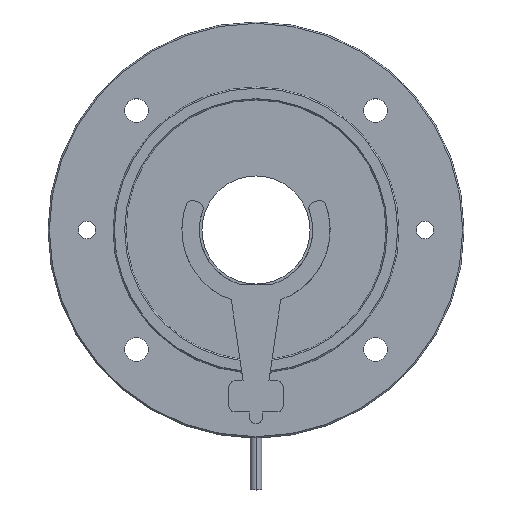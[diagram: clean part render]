
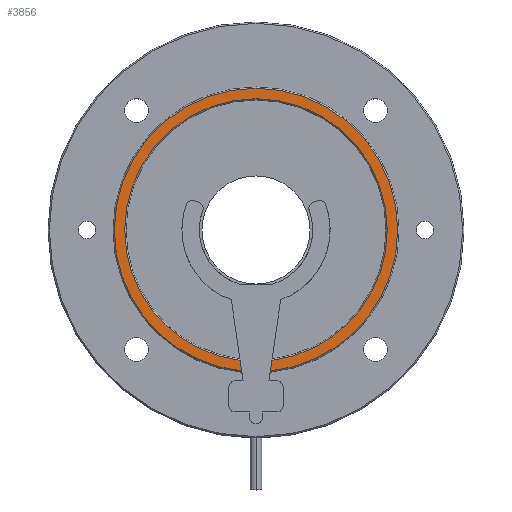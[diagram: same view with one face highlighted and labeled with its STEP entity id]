
A CAD part, top view. The second image highlights one B-rep face of the part: STEP entity #3856.
In plain terms, the highlighted planar face has unit normal (0, 0, 1).
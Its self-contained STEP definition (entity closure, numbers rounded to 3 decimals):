
#81 = VERTEX_POINT ( 'NONE', #2380 ) ;
#185 = DIRECTION ( 'NONE',  ( 0., 0., 1. ) ) ;
#232 = VERTEX_POINT ( 'NONE', #4898 ) ;
#249 = CARTESIAN_POINT ( 'NONE',  ( -50.5, 0., 0. ) ) ;
#353 = EDGE_CURVE ( 'NONE', #232, #2566, #5212, .T. ) ;
#562 = EDGE_CURVE ( 'NONE', #3844, #4221, #3636, .T. ) ;
#640 = CIRCLE ( 'NONE', #3425, 54.5 ) ;
#755 = CARTESIAN_POINT ( 'NONE',  ( 20.2, 47.078, 0. ) ) ;
#854 = DIRECTION ( 'NONE',  ( 0., 0., -1. ) ) ;
#877 = EDGE_CURVE ( 'NONE', #81, #2566, #3674, .T. ) ;
#886 = CARTESIAN_POINT ( 'NONE',  ( 50.5, 0., 0. ) ) ;
#915 = DIRECTION ( 'NONE',  ( -1., 0., 0. ) ) ;
#1071 = ORIENTED_EDGE ( 'NONE', *, *, #353, .T. ) ;
#1192 = DIRECTION ( 'NONE',  ( 0., 0., -1. ) ) ;
#1265 = EDGE_LOOP ( 'NONE', ( #4431, #6132, #2571, #2041, #3799, #5038, #4037, #1071 ) ) ;
#1462 = AXIS2_PLACEMENT_3D ( 'NONE', #2346, #854, #915 ) ;
#1718 = CARTESIAN_POINT ( 'NONE',  ( 6.139, -50.125, 0. ) ) ;
#1800 = VERTEX_POINT ( 'NONE', #3354 ) ;
#1945 = DIRECTION ( 'NONE',  ( 0., 0., 1. ) ) ;
#2005 = DIRECTION ( 'NONE',  ( -1., 0., 0. ) ) ;
#2030 = AXIS2_PLACEMENT_3D ( 'NONE', #2441, #1945, #2005 ) ;
#2036 = CARTESIAN_POINT ( 'NONE',  ( -5.547, -54.217, 0. ) ) ;
#2041 = ORIENTED_EDGE ( 'NONE', *, *, #562, .T. ) ;
#2346 = CARTESIAN_POINT ( 'NONE',  ( 0., 50., 0. ) ) ;
#2380 = CARTESIAN_POINT ( 'NONE',  ( -6.139, -50.125, 0. ) ) ;
#2441 = CARTESIAN_POINT ( 'NONE',  ( 0., 0., 0. ) ) ;
#2566 = VERTEX_POINT ( 'NONE', #2036 ) ;
#2571 = ORIENTED_EDGE ( 'NONE', *, *, #2871, .T. ) ;
#2651 = CARTESIAN_POINT ( 'NONE',  ( -20.2, 47.078, 0. ) ) ;
#2658 = DIRECTION ( 'NONE',  ( -0.143, -0.99, 0. ) ) ;
#2780 = DIRECTION ( 'NONE',  ( -1., 0., 0. ) ) ;
#2871 = EDGE_CURVE ( 'NONE', #4608, #3844, #4855, .T. ) ;
#2931 = CARTESIAN_POINT ( 'NONE',  ( 0., 0., 0. ) ) ;
#2968 = DIRECTION ( 'NONE',  ( 0., 0., -1. ) ) ;
#3019 = AXIS2_PLACEMENT_3D ( 'NONE', #3401, #185, #4861 ) ;
#3093 = DIRECTION ( 'NONE',  ( -1., 0., 0. ) ) ;
#3121 = LINE ( 'NONE', #755, #6133 ) ;
#3196 = FACE_OUTER_BOUND ( 'NONE', #1265, .T. ) ;
#3323 = VECTOR ( 'NONE', #4579, 1000. ) ;
#3354 = CARTESIAN_POINT ( 'NONE',  ( 54.5, 0., 0. ) ) ;
#3378 = DIRECTION ( 'NONE',  ( -1., 0., 0. ) ) ;
#3401 = CARTESIAN_POINT ( 'NONE',  ( 0., 0., 0. ) ) ;
#3425 = AXIS2_PLACEMENT_3D ( 'NONE', #2931, #5820, #4829 ) ;
#3636 = CIRCLE ( 'NONE', #4407, 50.5 ) ;
#3670 = AXIS2_PLACEMENT_3D ( 'NONE', #5627, #4730, #2780 ) ;
#3674 = LINE ( 'NONE', #2651, #3323 ) ;
#3730 = CARTESIAN_POINT ( 'NONE',  ( 5.547, -54.217, 0. ) ) ;
#3778 = PLANE ( 'NONE',  #1462 ) ;
#3799 = ORIENTED_EDGE ( 'NONE', *, *, #4349, .T. ) ;
#3844 = VERTEX_POINT ( 'NONE', #886 ) ;
#3856 = ADVANCED_FACE ( 'NONE', ( #3196 ), #3778, .F. ) ;
#4025 = CARTESIAN_POINT ( 'NONE',  ( 0., 0., 0. ) ) ;
#4037 = ORIENTED_EDGE ( 'NONE', *, *, #5756, .T. ) ;
#4221 = VERTEX_POINT ( 'NONE', #1718 ) ;
#4334 = CARTESIAN_POINT ( 'NONE',  ( 0., 0., 0. ) ) ;
#4349 = EDGE_CURVE ( 'NONE', #4221, #4913, #3121, .T. ) ;
#4407 = AXIS2_PLACEMENT_3D ( 'NONE', #4025, #1192, #3093 ) ;
#4431 = ORIENTED_EDGE ( 'NONE', *, *, #877, .F. ) ;
#4579 = DIRECTION ( 'NONE',  ( 0.143, -0.99, 0. ) ) ;
#4608 = VERTEX_POINT ( 'NONE', #249 ) ;
#4730 = DIRECTION ( 'NONE',  ( 0., 0., -1. ) ) ;
#4802 = CIRCLE ( 'NONE', #5502, 50.5 ) ;
#4829 = DIRECTION ( 'NONE',  ( -1., 0., 0. ) ) ;
#4855 = CIRCLE ( 'NONE', #3670, 50.5 ) ;
#4861 = DIRECTION ( 'NONE',  ( -1., 0., 0. ) ) ;
#4898 = CARTESIAN_POINT ( 'NONE',  ( -54.5, 0., 0. ) ) ;
#4913 = VERTEX_POINT ( 'NONE', #3730 ) ;
#4997 = EDGE_CURVE ( 'NONE', #81, #4608, #4802, .T. ) ;
#5038 = ORIENTED_EDGE ( 'NONE', *, *, #5415, .T. ) ;
#5212 = CIRCLE ( 'NONE', #3019, 54.5 ) ;
#5298 = CIRCLE ( 'NONE', #2030, 54.5 ) ;
#5415 = EDGE_CURVE ( 'NONE', #4913, #1800, #5298, .T. ) ;
#5502 = AXIS2_PLACEMENT_3D ( 'NONE', #4334, #2968, #3378 ) ;
#5627 = CARTESIAN_POINT ( 'NONE',  ( 0., 0., 0. ) ) ;
#5756 = EDGE_CURVE ( 'NONE', #1800, #232, #640, .T. ) ;
#5820 = DIRECTION ( 'NONE',  ( 0., 0., 1. ) ) ;
#6132 = ORIENTED_EDGE ( 'NONE', *, *, #4997, .T. ) ;
#6133 = VECTOR ( 'NONE', #2658, 1000. ) ;
